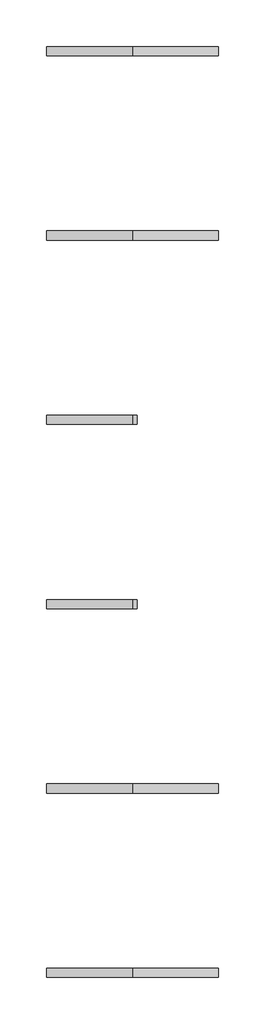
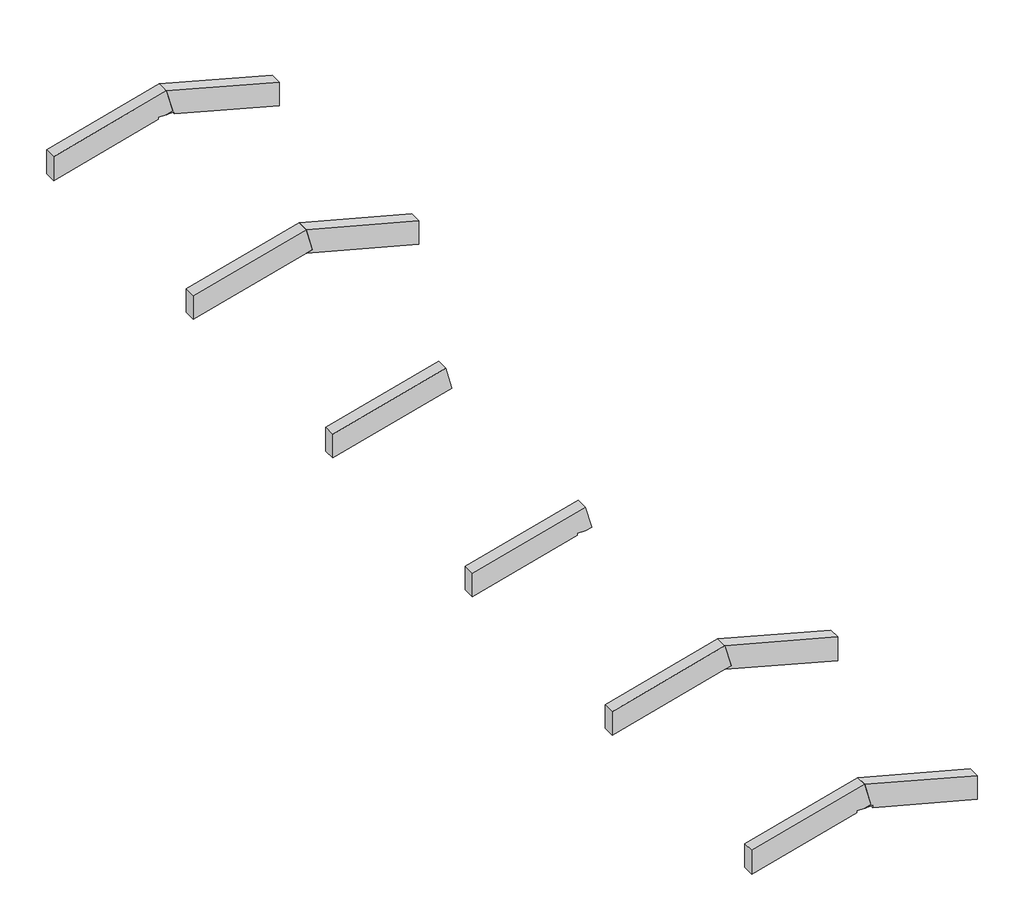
# One storey: 10 beams.
"""IFC4 building model written with IfcOpenShell, lengths in millimetres."""

from ifc_helpers import new_model, si_unit, frame, origin, place, context, project, spatial, polyline, outline, extrude, faceted_brep, element, save

model = new_model("IFC4")

# Units and contexts
model_context = context("Model", 3, world=origin())
ifc_project = project(units=[si_unit("LENGTHUNIT", "METRE", prefix="MILLI")], contexts=[model_context])

# Site, building, storey
site = spatial("IfcSite", under=ifc_project)
building = spatial("IfcBuilding", under=site)
storey = spatial("IfcBuildingStorey", under=building, Name="Đỉnh mái", Elevation=10013.4665205)

# Beams
placement = place(None, origin())
element("IfcBeam", 1, ObjectType="@BS-Concrete Beam : D300x600", at=placement, inside=storey, context=model_context, shape_type="SweptSolid", body=[
    extrude(outline(polyline([(9433.9110248, 10655.2914271), (10013.4665205, 10500.0), (9263.2087817, 7700.0), (8642.0430735, 7700.0), (9338.7109738, 10300.0), (9392.3008123, 10300.0), (9392.3008123, 10500.0), (9433.9110248, 10655.2914271)])), frame((0.0, -150.0, 0.0), z_axis=(0.0, 1.0, 0.0), x_axis=(0.0, 0.0, 1.0)), (0.0, 0.0, 1.0), 300.0),
])
element("IfcBeam", 2, ObjectType="@BS-Concrete Beam : D300x600", at=placement, inside=storey, context=model_context, shape_type="SweptSolid", body=[
    extrude(outline(polyline([(9263.2087817, 13300.0), (10013.4665205, 10500.0), (9433.9110248, 10655.2914271), (9392.3008123, 10500.0), (9392.3008123, 10700.0), (9338.7109738, 10700.0), (8642.0430735, 13300.0), (9263.2087817, 13300.0)])), frame((0.0, -150.0, 0.0), z_axis=(0.0, 1.0, 0.0), x_axis=(0.0, 0.0, 1.0)), (0.0, 0.0, 1.0), 300.0),
])
element("IfcBeam", 3, ObjectType="@BS-Concrete Beam : D300x600", at=placement, inside=storey, context=model_context, shape_type="Brep", body=[
    faceted_brep([(10500.0, 6150.0, 10013.4665205), (10500.0, 5850.0, 10013.4665205), (10655.2914271, 5850.0, 9433.9110248), (10655.2914271, 6150.0, 9433.9110248), (7700.0, 6150.0, 9263.2087817), (7700.0, 5850.0, 9263.2087817), (7700.0, 5850.0, 8642.0430735), (10500.0, 5850.0, 9392.3008123), (7700.0, 6150.0, 8642.0430735), (10500.0, 6150.0, 9392.3008123)], [[[0, 1, 2, 3]], [[1, 0, 4, 5]], [[2, 1, 5, 6, 7]], [[3, 2, 7, 6, 8, 9]], [[0, 3, 9, 8, 4]], [[5, 4, 8, 6]]]),
])
element("IfcBeam", 4, ObjectType="@BS-Concrete Beam : D300x600", at=placement, inside=storey, context=model_context, shape_type="SweptSolid", body=[
    extrude(outline(polyline([(9263.2087817, 13300.0), (10013.4665205, 10500.0), (9433.9110248, 10655.2914271), (9392.3008123, 10500.0), (8642.0430735, 13300.0), (9263.2087817, 13300.0)])), frame((0.0, 5850.0, 0.0), z_axis=(0.0, 1.0, 0.0), x_axis=(0.0, 0.0, 1.0)), (0.0, 0.0, 1.0), 300.0),
])
element("IfcBeam", 5, ObjectType="@BS-Concrete Beam : D300x600", at=placement, inside=storey, context=model_context, shape_type="SweptSolid", body=[
    extrude(outline(polyline([(9433.9110248, 10655.2914271), (10013.4665205, 10500.0), (9263.2087817, 7700.0), (8642.0430735, 7700.0), (9338.7109738, 10300.0), (9392.3008123, 10300.0), (9392.3008123, 10500.0), (9433.9110248, 10655.2914271)])), frame((0.0, 11850.0, 0.0), z_axis=(0.0, 1.0, 0.0), x_axis=(0.0, 0.0, 1.0)), (0.0, 0.0, 1.0), 300.0),
])
element("IfcBeam", 6, ObjectType="@BS-Concrete Beam : D300x600", at=placement, inside=storey, context=model_context, shape_type="Brep", body=[
    faceted_brep([(10500.0, 18150.0, 10013.4665205), (10500.0, 17850.0, 10013.4665205), (10655.2914271, 17850.0, 9433.9110248), (10655.2914271, 18150.0, 9433.9110248), (7700.0, 18150.0, 9263.2087817), (7700.0, 17850.0, 9263.2087817), (7700.0, 17850.0, 8642.0430735), (10500.0, 17850.0, 9392.3008123), (7700.0, 18150.0, 8642.0430735), (10500.0, 18150.0, 9392.3008123)], [[[0, 1, 2, 3]], [[1, 0, 4, 5]], [[2, 1, 5, 6, 7]], [[3, 2, 7, 6, 8, 9]], [[0, 3, 9, 8, 4]], [[5, 4, 8, 6]]]),
])
element("IfcBeam", 7, ObjectType="@BS-Concrete Beam : D300x600", at=placement, inside=storey, context=model_context, shape_type="Brep", body=[
    faceted_brep([(10500.0, 24150.0, 10013.4665205), (10500.0, 23850.0, 10013.4665205), (10655.2914271, 23850.0, 9433.9110248), (10655.2914271, 24150.0, 9433.9110248), (7700.0, 24150.0, 9263.2087817), (7700.0, 23850.0, 9263.2087817), (7700.0, 23850.0, 8642.0430735), (10500.0, 23850.0, 9392.3008123), (7700.0, 24150.0, 8642.0430735), (10500.0, 24150.0, 9392.3008123)], [[[0, 1, 2, 3]], [[1, 0, 4, 5]], [[2, 1, 5, 6, 7]], [[3, 2, 7, 6, 8, 9]], [[0, 3, 9, 8, 4]], [[5, 4, 8, 6]]]),
])
element("IfcBeam", 8, ObjectType="@BS-Concrete Beam : D300x600", at=placement, inside=storey, context=model_context, shape_type="SweptSolid", body=[
    extrude(outline(polyline([(9263.2087817, 13300.0), (10013.4665205, 10500.0), (9433.9110248, 10655.2914271), (9392.3008123, 10500.0), (8642.0430735, 13300.0), (9263.2087817, 13300.0)])), frame((0.0, 23850.0, 0.0), z_axis=(0.0, 1.0, 0.0), x_axis=(0.0, 0.0, 1.0)), (0.0, 0.0, 1.0), 300.0),
])
element("IfcBeam", 9, ObjectType="@BS-Concrete Beam : D300x600", at=placement, inside=storey, context=model_context, shape_type="SweptSolid", body=[
    extrude(outline(polyline([(9433.9110248, 10655.2914271), (10013.4665205, 10500.0), (9263.2087817, 7700.0), (8642.0430735, 7700.0), (9338.7109738, 10300.0), (9392.3008123, 10300.0), (9392.3008123, 10500.0), (9433.9110248, 10655.2914271)])), frame((0.0, 29850.0, 0.0), z_axis=(0.0, 1.0, 0.0), x_axis=(0.0, 0.0, 1.0)), (0.0, 0.0, 1.0), 300.0),
])
element("IfcBeam", 10, ObjectType="@BS-Concrete Beam : D300x600", at=placement, inside=storey, context=model_context, shape_type="SweptSolid", body=[
    extrude(outline(polyline([(9263.2087817, 13300.0), (10013.4665205, 10500.0), (9433.9110248, 10655.2914271), (9392.3008123, 10500.0), (9392.3008123, 10700.0), (9338.7109738, 10700.0), (8642.0430735, 13300.0), (9263.2087817, 13300.0)])), frame((0.0, 29850.0, 0.0), z_axis=(0.0, 1.0, 0.0), x_axis=(0.0, 0.0, 1.0)), (0.0, 0.0, 1.0), 300.0),
])

save(model, "model.ifc")
